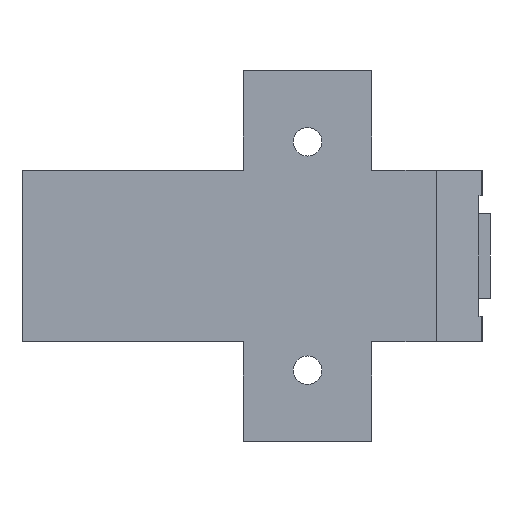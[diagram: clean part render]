
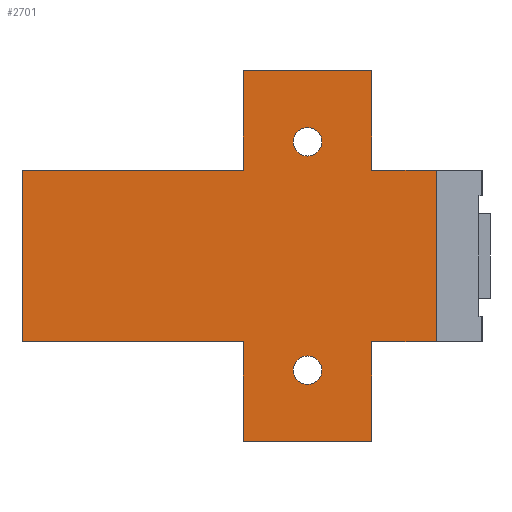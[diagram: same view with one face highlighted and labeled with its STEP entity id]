
A CAD part, left-side view. The second image highlights one B-rep face of the part: STEP entity #2701.
In plain terms, the highlighted planar face has unit normal (-1, 0, 0).
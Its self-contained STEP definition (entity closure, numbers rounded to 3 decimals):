
#7 = EDGE_CURVE ( 'NONE', #789, #862, #468, .T. ) ;
#8 = EDGE_CURVE ( 'NONE', #862, #719, #443, .T. ) ;
#9 = EDGE_CURVE ( 'NONE', #870, #798, #2154, .T. ) ;
#10 = EDGE_CURVE ( 'NONE', #803, #814, #2311, .T. ) ;
#180 = LINE ( 'NONE', #181, #2274 ) ;
#181 = CARTESIAN_POINT ( 'NONE',  ( 0., -5.007, -12. ) ) ;
#182 = DIRECTION ( 'NONE',  ( 0., 0., 1. ) ) ;
#183 = LINE ( 'NONE', #184, #2365 ) ;
#184 = CARTESIAN_POINT ( 'NONE',  ( 0., -5.007, 12. ) ) ;
#185 = DIRECTION ( 'NONE',  ( 0., 1., 0. ) ) ;
#186 = LINE ( 'NONE', #187, #2223 ) ;
#187 = CARTESIAN_POINT ( 'NONE',  ( 0., -5.007, -12. ) ) ;
#188 = DIRECTION ( 'NONE',  ( 0., 1., 0. ) ) ;
#189 = LINE ( 'NONE', #190, #2538 ) ;
#190 = CARTESIAN_POINT ( 'NONE',  ( 0., 4., -26. ) ) ;
#191 = DIRECTION ( 'NONE',  ( 0., 0., 1. ) ) ;
#192 = LINE ( 'NONE', #194, #2520 ) ;
#194 = CARTESIAN_POINT ( 'NONE',  ( 0., 4., -26. ) ) ;
#195 = DIRECTION ( 'NONE',  ( 0., 1., 0. ) ) ;
#197 = CARTESIAN_POINT ( 'NONE',  ( 0., 53., -12. ) ) ;
#199 = LINE ( 'NONE', #197, #2550 ) ;
#202 = LINE ( 'NONE', #203, #2168 ) ;
#203 = CARTESIAN_POINT ( 'NONE',  ( 0., 22., -26. ) ) ;
#204 = DIRECTION ( 'NONE',  ( 0., 0., 1. ) ) ;
#206 = DIRECTION ( 'NONE',  ( 0., 0., 1. ) ) ;
#212 = LINE ( 'NONE', #213, #2495 ) ;
#213 = CARTESIAN_POINT ( 'NONE',  ( 0., 22., -26. ) ) ;
#214 = DIRECTION ( 'NONE',  ( 0., 0., 1. ) ) ;
#215 = LINE ( 'NONE', #216, #2525 ) ;
#216 = CARTESIAN_POINT ( 'NONE',  ( 0., -5.007, 12. ) ) ;
#217 = DIRECTION ( 'NONE',  ( 0., 1., 0. ) ) ;
#428 = DIRECTION ( 'NONE',  ( 0., 0., 1. ) ) ;
#429 = DIRECTION ( 'NONE',  ( -1., 0., 0. ) ) ;
#430 = CARTESIAN_POINT ( 'NONE',  ( 0., 13., -16. ) ) ;
#431 = DIRECTION ( 'NONE',  ( 0., 0., -1. ) ) ;
#432 = DIRECTION ( 'NONE',  ( 1., 0., 0. ) ) ;
#433 = CARTESIAN_POINT ( 'NONE',  ( 0., 13., 16. ) ) ;
#437 = DIRECTION ( 'NONE',  ( 0., 1., 0. ) ) ;
#439 = CARTESIAN_POINT ( 'NONE',  ( 0., 4., 26. ) ) ;
#440 = DIRECTION ( 'NONE',  ( 0., 0., 1. ) ) ;
#443 = LINE ( 'NONE', #439, #2565 ) ;
#468 = LINE ( 'NONE', #477, #2260 ) ;
#477 = CARTESIAN_POINT ( 'NONE',  ( 0., 4., -26. ) ) ;
#482 = EDGE_LOOP ( 'NONE', ( #3025, #3026, #3027, #3028, #3029, #3030, #3031, #3032, #3033, #3034, #3035, #3036 ) ) ;
#483 = EDGE_LOOP ( 'NONE', ( #3039, #3040 ) ) ;
#552 = VERTEX_POINT ( 'NONE', #1253 ) ;
#567 = EDGE_LOOP ( 'NONE', ( #3037, #3038 ) ) ;
#702 = VERTEX_POINT ( 'NONE', #1257 ) ;
#712 = VERTEX_POINT ( 'NONE', #1267 ) ;
#715 = VERTEX_POINT ( 'NONE', #1270 ) ;
#717 = VERTEX_POINT ( 'NONE', #1272 ) ;
#719 = VERTEX_POINT ( 'NONE', #1274 ) ;
#725 = VERTEX_POINT ( 'NONE', #1280 ) ;
#769 = VERTEX_POINT ( 'NONE', #1324 ) ;
#773 = VERTEX_POINT ( 'NONE', #1328 ) ;
#789 = VERTEX_POINT ( 'NONE', #1041 ) ;
#798 = VERTEX_POINT ( 'NONE', #1050 ) ;
#803 = VERTEX_POINT ( 'NONE', #1055 ) ;
#814 = VERTEX_POINT ( 'NONE', #1066 ) ;
#862 = VERTEX_POINT ( 'NONE', #1113 ) ;
#864 = VERTEX_POINT ( 'NONE', #1115 ) ;
#870 = VERTEX_POINT ( 'NONE', #1121 ) ;
#1041 = CARTESIAN_POINT ( 'NONE',  ( 0., 4., 12. ) ) ;
#1050 = CARTESIAN_POINT ( 'NONE',  ( 0., 13., 18. ) ) ;
#1055 = CARTESIAN_POINT ( 'NONE',  ( 0., 13., -14. ) ) ;
#1066 = CARTESIAN_POINT ( 'NONE',  ( 0., 13., -18. ) ) ;
#1113 = CARTESIAN_POINT ( 'NONE',  ( 0., 4., 26. ) ) ;
#1115 = CARTESIAN_POINT ( 'NONE',  ( 0., -5.007, -12. ) ) ;
#1121 = CARTESIAN_POINT ( 'NONE',  ( 0., 13., 14. ) ) ;
#1154 = LINE ( 'NONE', #1155, #2433 ) ;
#1155 = CARTESIAN_POINT ( 'NONE',  ( 0., -5.007, -12. ) ) ;
#1156 = DIRECTION ( 'NONE',  ( 0., 1., 0. ) ) ;
#1253 = CARTESIAN_POINT ( 'NONE',  ( 0., 22., 12. ) ) ;
#1257 = CARTESIAN_POINT ( 'NONE',  ( 0., 53., -12. ) ) ;
#1267 = CARTESIAN_POINT ( 'NONE',  ( 0., 4., -12. ) ) ;
#1270 = CARTESIAN_POINT ( 'NONE',  ( 0., 22., -26. ) ) ;
#1272 = CARTESIAN_POINT ( 'NONE',  ( 0., -5.007, 12. ) ) ;
#1274 = CARTESIAN_POINT ( 'NONE',  ( 0., 22., 26. ) ) ;
#1280 = CARTESIAN_POINT ( 'NONE',  ( 0., 22., -12. ) ) ;
#1324 = CARTESIAN_POINT ( 'NONE',  ( 0., 4., -26. ) ) ;
#1328 = CARTESIAN_POINT ( 'NONE',  ( 0., 53., 12. ) ) ;
#1764 = FACE_BOUND ( 'NONE', #567, .T. ) ;
#1766 = DIRECTION ( 'NONE',  ( 1., 0., 0. ) ) ;
#1770 = FACE_OUTER_BOUND ( 'NONE', #482, .T. ) ;
#1771 = CARTESIAN_POINT ( 'NONE',  ( 0., -5.007, -12. ) ) ;
#1773 = FACE_BOUND ( 'NONE', #483, .T. ) ;
#1774 = PLANE ( 'NONE',  #2161 ) ;
#1775 = DIRECTION ( 'NONE',  ( 0., 0., -1. ) ) ;
#1841 = CARTESIAN_POINT ( 'NONE',  ( 0., 13., 16. ) ) ;
#1842 = DIRECTION ( 'NONE',  ( 1., 0., 0. ) ) ;
#1843 = DIRECTION ( 'NONE',  ( 0., 0., -1. ) ) ;
#1917 = CARTESIAN_POINT ( 'NONE',  ( 0., 13., -16. ) ) ;
#1918 = DIRECTION ( 'NONE',  ( -1., 0., 0. ) ) ;
#1919 = DIRECTION ( 'NONE',  ( 0., 0., 1. ) ) ;
#2154 = CIRCLE ( 'NONE', #2294, 2. ) ;
#2161 = AXIS2_PLACEMENT_3D ( 'NONE', #1771, #1766, #1775 ) ;
#2168 = VECTOR ( 'NONE', #204, 1000. ) ;
#2223 = VECTOR ( 'NONE', #188, 1000. ) ;
#2233 = AXIS2_PLACEMENT_3D ( 'NONE', #430, #429, #428 ) ;
#2260 = VECTOR ( 'NONE', #440, 1000. ) ;
#2274 = VECTOR ( 'NONE', #182, 1000. ) ;
#2275 = AXIS2_PLACEMENT_3D ( 'NONE', #1841, #1842, #1843 ) ;
#2294 = AXIS2_PLACEMENT_3D ( 'NONE', #433, #432, #431 ) ;
#2311 = CIRCLE ( 'NONE', #2233, 2. ) ;
#2365 = VECTOR ( 'NONE', #185, 1000. ) ;
#2420 = CIRCLE ( 'NONE', #2275, 2. ) ;
#2433 = VECTOR ( 'NONE', #1156, 1000. ) ;
#2452 = AXIS2_PLACEMENT_3D ( 'NONE', #1917, #1918, #1919 ) ;
#2464 = CIRCLE ( 'NONE', #2452, 2. ) ;
#2495 = VECTOR ( 'NONE', #214, 1000. ) ;
#2520 = VECTOR ( 'NONE', #195, 1000. ) ;
#2525 = VECTOR ( 'NONE', #217, 1000. ) ;
#2538 = VECTOR ( 'NONE', #191, 1000. ) ;
#2550 = VECTOR ( 'NONE', #206, 1000. ) ;
#2565 = VECTOR ( 'NONE', #437, 1000. ) ;
#2574 = EDGE_CURVE ( 'NONE', #725, #702, #1154, .T. ) ;
#2638 = EDGE_CURVE ( 'NONE', #864, #717, #180, .T. ) ;
#2639 = EDGE_CURVE ( 'NONE', #717, #789, #183, .T. ) ;
#2640 = EDGE_CURVE ( 'NONE', #864, #712, #186, .T. ) ;
#2641 = EDGE_CURVE ( 'NONE', #769, #712, #189, .T. ) ;
#2642 = EDGE_CURVE ( 'NONE', #769, #715, #192, .T. ) ;
#2644 = EDGE_CURVE ( 'NONE', #715, #725, #202, .T. ) ;
#2645 = EDGE_CURVE ( 'NONE', #702, #773, #199, .T. ) ;
#2648 = EDGE_CURVE ( 'NONE', #552, #719, #212, .T. ) ;
#2649 = EDGE_CURVE ( 'NONE', #552, #773, #215, .T. ) ;
#2701 = ADVANCED_FACE ( 'NONE', ( #1770, #1764, #1773 ), #1774, .F. ) ;
#2717 = EDGE_CURVE ( 'NONE', #798, #870, #2420, .T. ) ;
#2739 = EDGE_CURVE ( 'NONE', #814, #803, #2464, .T. ) ;
#3025 = ORIENTED_EDGE ( 'NONE', *, *, #2648, .F. ) ;
#3026 = ORIENTED_EDGE ( 'NONE', *, *, #2649, .T. ) ;
#3027 = ORIENTED_EDGE ( 'NONE', *, *, #2645, .F. ) ;
#3028 = ORIENTED_EDGE ( 'NONE', *, *, #2574, .F. ) ;
#3029 = ORIENTED_EDGE ( 'NONE', *, *, #2644, .F. ) ;
#3030 = ORIENTED_EDGE ( 'NONE', *, *, #2642, .F. ) ;
#3031 = ORIENTED_EDGE ( 'NONE', *, *, #2641, .T. ) ;
#3032 = ORIENTED_EDGE ( 'NONE', *, *, #2640, .F. ) ;
#3033 = ORIENTED_EDGE ( 'NONE', *, *, #2638, .T. ) ;
#3034 = ORIENTED_EDGE ( 'NONE', *, *, #2639, .T. ) ;
#3035 = ORIENTED_EDGE ( 'NONE', *, *, #7, .T. ) ;
#3036 = ORIENTED_EDGE ( 'NONE', *, *, #8, .T. ) ;
#3037 = ORIENTED_EDGE ( 'NONE', *, *, #9, .T. ) ;
#3038 = ORIENTED_EDGE ( 'NONE', *, *, #2717, .T. ) ;
#3039 = ORIENTED_EDGE ( 'NONE', *, *, #2739, .F. ) ;
#3040 = ORIENTED_EDGE ( 'NONE', *, *, #10, .F. ) ;
